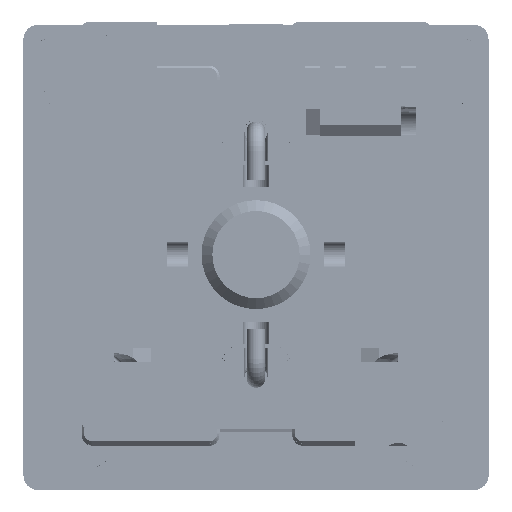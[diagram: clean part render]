
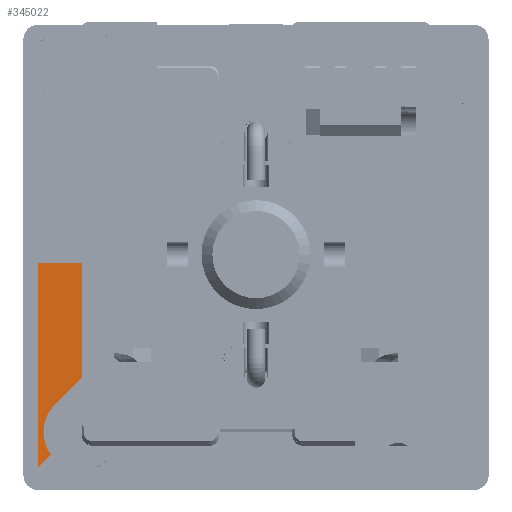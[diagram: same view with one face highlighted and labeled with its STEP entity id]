
A CAD part, top view. The second image highlights one B-rep face of the part: STEP entity #345022.
In plain terms, the highlighted planar face has unit normal (0, 0, 1).
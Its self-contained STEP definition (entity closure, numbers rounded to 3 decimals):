
#10264 = EDGE_CURVE ( 'NONE', #356856, #406741, #368612, .T. ) ;
#29775 = CARTESIAN_POINT ( 'NONE',  ( -23.639, -34.05, -377.182 ) ) ;
#31478 = LINE ( 'NONE', #228599, #43530 ) ;
#33711 = VECTOR ( 'NONE', #475692, 1000. ) ;
#34273 = DIRECTION ( 'NONE',  ( -1., 0., 0. ) ) ;
#35407 = AXIS2_PLACEMENT_3D ( 'NONE', #238486, #308092, #76489 ) ;
#43530 = VECTOR ( 'NONE', #73181, 1000. ) ;
#60043 = VECTOR ( 'NONE', #307075, 1000. ) ;
#67021 = ORIENTED_EDGE ( 'NONE', *, *, #294993, .T. ) ;
#73181 = DIRECTION ( 'NONE',  ( 0., 1., 0. ) ) ;
#76489 = DIRECTION ( 'NONE',  ( -1., 0., 0. ) ) ;
#82109 = DIRECTION ( 'NONE',  ( -1., 0., 0. ) ) ;
#90594 = VECTOR ( 'NONE', #101898, 1000. ) ;
#101898 = DIRECTION ( 'NONE',  ( 1., 0., 0. ) ) ;
#107920 = CARTESIAN_POINT ( 'NONE',  ( 6.361, -5.111, -377.182 ) ) ;
#110481 = DIRECTION ( 'NONE',  ( 0., 0., -1. ) ) ;
#112411 = CARTESIAN_POINT ( 'NONE',  ( -15.351, -19.398, -377.182 ) ) ;
#118095 = VECTOR ( 'NONE', #442894, 1000. ) ;
#136608 = CARTESIAN_POINT ( 'NONE',  ( 6.361, -5.111, -377.182 ) ) ;
#147550 = VERTEX_POINT ( 'NONE', #224124 ) ;
#148312 = EDGE_CURVE ( 'NONE', #147550, #406741, #468254, .T. ) ;
#149173 = VERTEX_POINT ( 'NONE', #29775 ) ;
#167789 = ORIENTED_EDGE ( 'NONE', *, *, #416201, .F. ) ;
#171945 = VERTEX_POINT ( 'NONE', #313445 ) ;
#183316 = EDGE_CURVE ( 'NONE', #256549, #498631, #470111, .T. ) ;
#183371 = ORIENTED_EDGE ( 'NONE', *, *, #384944, .T. ) ;
#201624 = CARTESIAN_POINT ( 'NONE',  ( 5.831, -4.58, -377.182 ) ) ;
#203849 = EDGE_CURVE ( 'NONE', #315215, #498631, #269343, .T. ) ;
#217712 = DIRECTION ( 'NONE',  ( -1., 0., 0. ) ) ;
#218807 = ORIENTED_EDGE ( 'NONE', *, *, #203849, .F. ) ;
#224124 = CARTESIAN_POINT ( 'NONE',  ( -4.1, -5.861, -377.182 ) ) ;
#224633 = DIRECTION ( 'NONE',  ( -0.707, -0.707, 0. ) ) ;
#228599 = CARTESIAN_POINT ( 'NONE',  ( -23.639, -5.111, -377.182 ) ) ;
#229035 = ORIENTED_EDGE ( 'NONE', *, *, #255783, .T. ) ;
#234161 = EDGE_CURVE ( 'NONE', #413796, #149173, #249189, .T. ) ;
#238486 = CARTESIAN_POINT ( 'NONE',  ( -8.639, -5.111, -377.182 ) ) ;
#239478 = AXIS2_PLACEMENT_3D ( 'NONE', #499867, #274728, #82109 ) ;
#247791 = CIRCLE ( 'NONE', #409218, 10. ) ;
#249189 = LINE ( 'NONE', #373694, #455125 ) ;
#253083 = DIRECTION ( 'NONE',  ( 0., 0., -1. ) ) ;
#255783 = EDGE_CURVE ( 'NONE', #340351, #256549, #311623, .T. ) ;
#256549 = VERTEX_POINT ( 'NONE', #112411 ) ;
#259909 = DIRECTION ( 'NONE',  ( 0., 0., -1. ) ) ;
#261395 = CARTESIAN_POINT ( 'NONE',  ( 6.361, -5.861, -377.182 ) ) ;
#269343 = LINE ( 'NONE', #201624, #33711 ) ;
#274728 = DIRECTION ( 'NONE',  ( 0., 0., -1. ) ) ;
#278453 = AXIS2_PLACEMENT_3D ( 'NONE', #107920, #259909, #217712 ) ;
#283003 = AXIS2_PLACEMENT_3D ( 'NONE', #419766, #110481, #34273 ) ;
#294548 = CARTESIAN_POINT ( 'NONE',  ( 6.361, -5.861, -377.182 ) ) ;
#294993 = EDGE_CURVE ( 'NONE', #413796, #340351, #311434, .T. ) ;
#297246 = PLANE ( 'NONE',  #278453 ) ;
#302127 = LINE ( 'NONE', #294548, #90594 ) ;
#307075 = DIRECTION ( 'NONE',  ( 1., 0., 0. ) ) ;
#307161 = CARTESIAN_POINT ( 'NONE',  ( -13.177, -5.861, -377.182 ) ) ;
#308092 = DIRECTION ( 'NONE',  ( 0., 0., -1. ) ) ;
#311434 = CIRCLE ( 'NONE', #239478, 5.25 ) ;
#311623 = LINE ( 'NONE', #436225, #118095 ) ;
#313445 = CARTESIAN_POINT ( 'NONE',  ( -3.611, -5.861, -377.182 ) ) ;
#315215 = VERTEX_POINT ( 'NONE', #479740 ) ;
#340351 = VERTEX_POINT ( 'NONE', #495443 ) ;
#345022 = ADVANCED_FACE ( 'NONE', ( #454123 ), #297246, .F. ) ;
#356856 = VERTEX_POINT ( 'NONE', #445078 ) ;
#363263 = ORIENTED_EDGE ( 'NONE', *, *, #234161, .F. ) ;
#366551 = ORIENTED_EDGE ( 'NONE', *, *, #458560, .F. ) ;
#368612 = LINE ( 'NONE', #261395, #60043 ) ;
#369541 = ORIENTED_EDGE ( 'NONE', *, *, #183316, .T. ) ;
#373694 = CARTESIAN_POINT ( 'NONE',  ( 5.831, -4.58, -377.182 ) ) ;
#384944 = EDGE_CURVE ( 'NONE', #315215, #171945, #247791, .T. ) ;
#390621 = CARTESIAN_POINT ( 'NONE',  ( -21.843, -32.255, -377.182 ) ) ;
#406741 = VERTEX_POINT ( 'NONE', #307161 ) ;
#407037 = DIRECTION ( 'NONE',  ( -1., 0., 0. ) ) ;
#409218 = AXIS2_PLACEMENT_3D ( 'NONE', #136608, #253083, #407037 ) ;
#413796 = VERTEX_POINT ( 'NONE', #390621 ) ;
#416201 = EDGE_CURVE ( 'NONE', #149173, #356856, #31478, .T. ) ;
#419766 = CARTESIAN_POINT ( 'NONE',  ( -11.639, -23.111, -377.182 ) ) ;
#425026 = ORIENTED_EDGE ( 'NONE', *, *, #148312, .T. ) ;
#436225 = CARTESIAN_POINT ( 'NONE',  ( 2.649, -1.398, -377.182 ) ) ;
#442894 = DIRECTION ( 'NONE',  ( 0.707, 0.707, 0. ) ) ;
#444368 = ORIENTED_EDGE ( 'NONE', *, *, #10264, .F. ) ;
#445078 = CARTESIAN_POINT ( 'NONE',  ( -23.639, -5.861, -377.182 ) ) ;
#454123 = FACE_OUTER_BOUND ( 'NONE', #464607, .T. ) ;
#455125 = VECTOR ( 'NONE', #224633, 1000. ) ;
#458560 = EDGE_CURVE ( 'NONE', #147550, #171945, #302127, .T. ) ;
#464607 = EDGE_LOOP ( 'NONE', ( #425026, #444368, #167789, #363263, #67021, #229035, #369541, #218807, #183371, #366551 ) ) ;
#467825 = CARTESIAN_POINT ( 'NONE',  ( -8.495, -18.906, -377.182 ) ) ;
#468254 = CIRCLE ( 'NONE', #35407, 4.6 ) ;
#470111 = CIRCLE ( 'NONE', #283003, 5.25 ) ;
#475692 = DIRECTION ( 'NONE',  ( -0.707, -0.707, 0. ) ) ;
#479740 = CARTESIAN_POINT ( 'NONE',  ( -1.22, -11.631, -377.182 ) ) ;
#495443 = CARTESIAN_POINT ( 'NONE',  ( -21.351, -25.398, -377.182 ) ) ;
#498631 = VERTEX_POINT ( 'NONE', #467825 ) ;
#499867 = CARTESIAN_POINT ( 'NONE',  ( -17.639, -29.111, -377.182 ) ) ;
